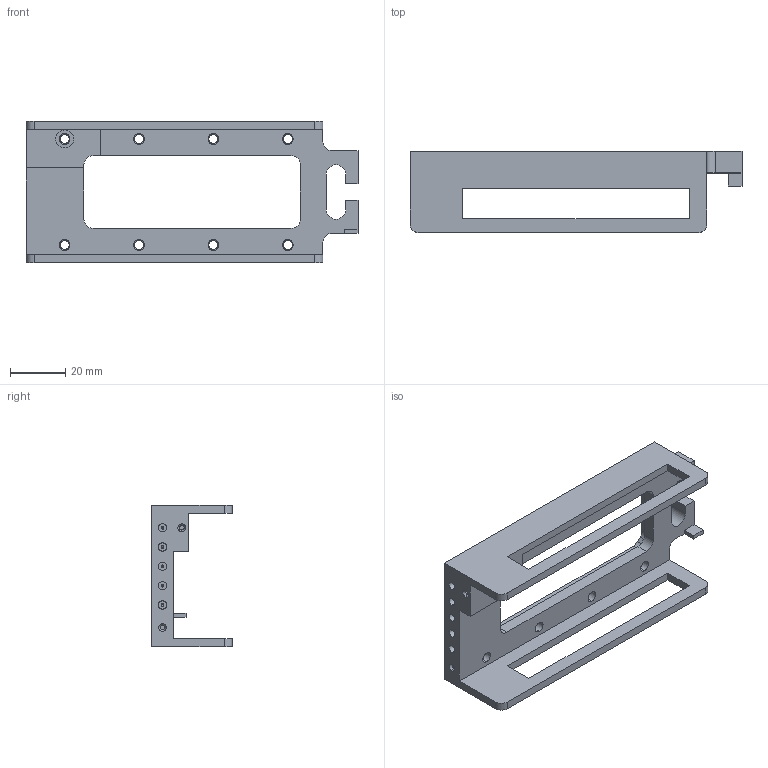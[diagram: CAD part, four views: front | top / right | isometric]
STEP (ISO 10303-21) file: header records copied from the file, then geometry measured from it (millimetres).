
FILE_DESCRIPTION (( 'STEP AP214' ), '1' );
FILE_NAME ('Dock, Desk Top, Biolink R02.STEP', '2026-07-27T21:13:14', ( '' ), ( '' ), 'SwSTEP 2.0', 'SolidWorks 2025', '' );
FILE_SCHEMA (( 'AUTOMOTIVE_DESIGN' ));
Length unit declared in the file: millimetre
Products named in the file (1): Dock, Desk Top, Biolink R02
Bounding box: 120.45 x 29.44 x 51.5 mm (x, y, z)
Volume: 36024 mm3; surface area: 20670.8 mm2
Topology: 1 solids, 1 shells, 230 faces, 576 edges, 358 vertices
Faces by surface type: cylinder 118, plane 60, torus 32, cone 20
Entity records: 7019 total; most frequent: DIRECTION 1332, CARTESIAN_POINT 1189, ORIENTED_EDGE 1152, EDGE_CURVE 576, AXIS2_PLACEMENT_3D 527, VERTEX_POINT 358, CIRCLE 296, LINE 278
